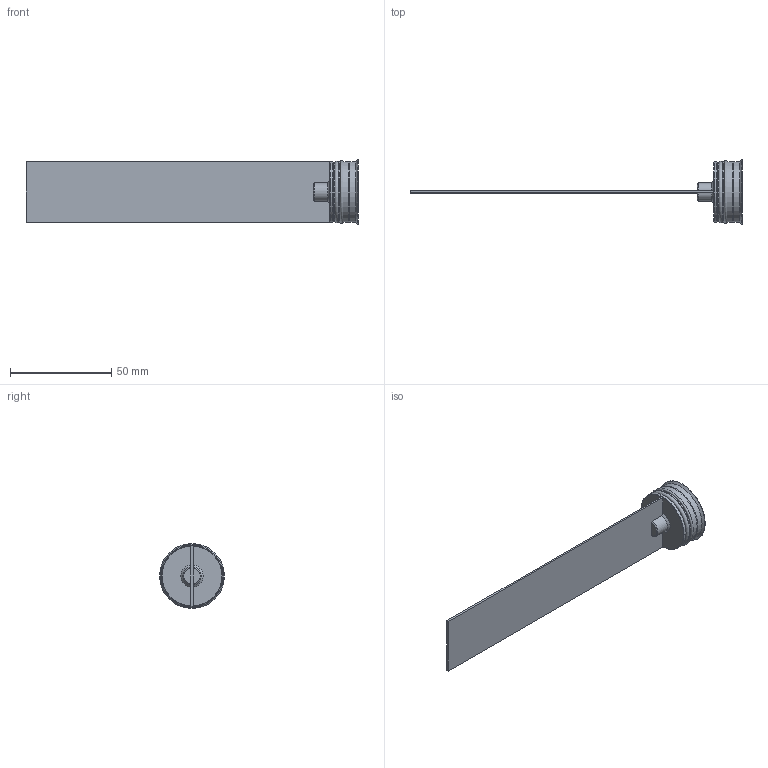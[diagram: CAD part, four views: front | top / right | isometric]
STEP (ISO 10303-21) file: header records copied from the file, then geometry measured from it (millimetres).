
FILE_DESCRIPTION( ( 'STEP AP214' ), '1' );
FILE_NAME( 'p:/temp/worker_255/temp/exporttempdir_4140_541_kSRW7/format_0/RL-30Fx150.stp', '2021-02-05T19:46:55', ( 'License CC BY-ND 4.0' ), ( 'CADENAS' ), ' ', 'PARTsolutions', ' ' );
FILE_SCHEMA( ( 'AUTOMOTIVE_DESIGN { 1 0 10303 214 1 1 1 1 }' ) );
Length unit declared in the file: millimetre
Products named in the file (1): _RL-30Fx150
Bounding box: 164 x 32 x 32 mm (x, y, z)
Volume: 14601.8 mm3; surface area: 13047.2 mm2
Topology: 1 solids, 1 shells, 55 faces, 131 edges, 83 vertices
Faces by surface type: plane 31, cone 11, cylinder 10, torus 3
Full cylindrical faces by diameter (mm): 10 x1, 30 x4, 32 x1
Entity records: 1970 total; most frequent: CARTESIAN_POINT 300, DIRECTION 248, ORIENTED_EDGE 230, EDGE_CURVE 115, AXIS2_PLACEMENT_3D 91, VERTEX_POINT 83, EDGE_LOOP 74, LINE 66
